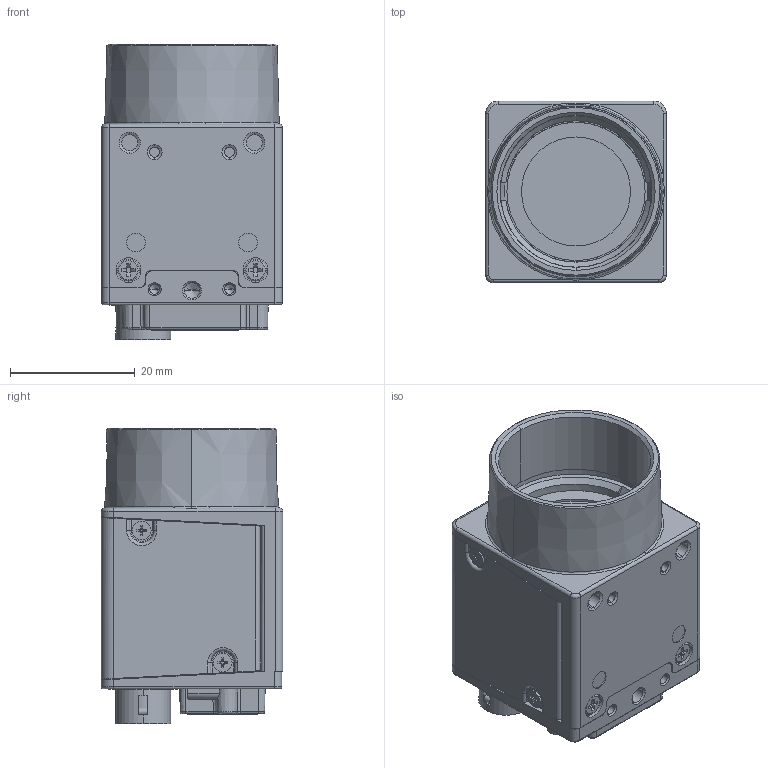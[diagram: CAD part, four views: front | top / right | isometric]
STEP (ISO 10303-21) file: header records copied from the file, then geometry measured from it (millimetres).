
FILE_DESCRIPTION((''),'2;1');
FILE_NAME('DH3-0694-6360_1','2023-11-25T14:53:19',('21511'),(''),'CREO PARAMETRIC BY PTC INC, 2020184','CREO PARAMETRIC BY PTC INC, 2020184','');
FILE_SCHEMA(('CONFIG_CONTROL_DESIGN','SHAPE_APPEARANCE_LAYERS_GROUPS'));
Products named in the file (1): DH3-0694-6360_1
Bounding box: 29 x 29.13 x 47.4 mm (x, y, z)
Volume: 24902.6 mm3; surface area: 11747.7 mm2
Topology: 1 solids, 11 shells, 1515 faces, 4226 edges, 2741 vertices
Faces by surface type: plane 826, cylinder 396, bspline 137, cone 99, torus 40, extrusion 13, sphere 4
Entity records: 69206 total; most frequent: CARTESIAN_POINT 14552, ORIENTED_EDGE 8432, DIRECTION 7528, PRESENTATION_STYLE_ASSIGNMENT 4661, STYLED_ITEM 4223, CURVE_STYLE 4222, EDGE_CURVE 4216, VECTOR 2902
